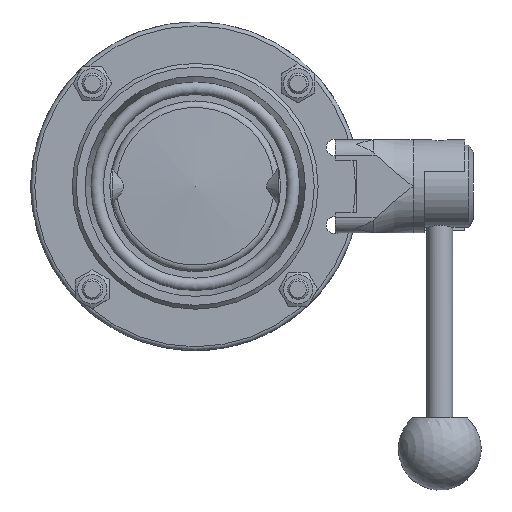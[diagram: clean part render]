
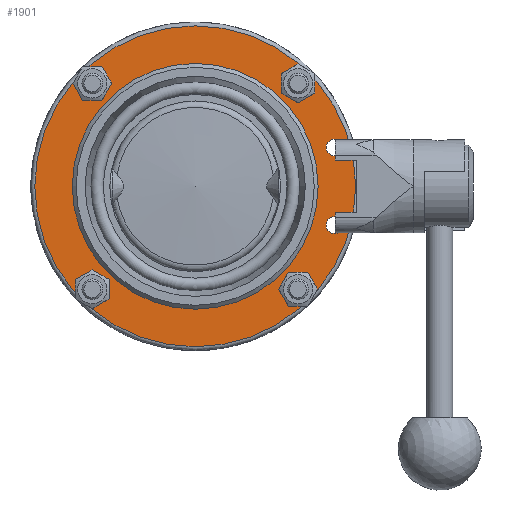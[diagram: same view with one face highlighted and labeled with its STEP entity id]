
A CAD part, front view. The second image highlights one B-rep face of the part: STEP entity #1901.
In plain terms, the highlighted planar face has unit normal (0, -1, 0) as drawn and (1, 0, 0) by its records, which use the part's own axes.
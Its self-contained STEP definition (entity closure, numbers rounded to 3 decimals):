
#1344=CARTESIAN_POINT('',(-9.36,41.04,57.05));
#1345=VERTEX_POINT('',#1344);
#1346=CARTESIAN_POINT('',(-9.36,41.04,53.8));
#1347=DIRECTION('',(-1.0,0.0,0.0));
#1348=DIRECTION('',(0.0,0.0,-1.0));
#1349=AXIS2_PLACEMENT_3D('',#1346,#1347,#1348);
#1350=CIRCLE('',#1349,3.25);
#1351=EDGE_CURVE('',#1345,#1345,#1350,.T.);
#1372=CARTESIAN_POINT('',(-9.36,11.04,57.05));
#1373=VERTEX_POINT('',#1372);
#1374=CARTESIAN_POINT('',(-9.36,11.04,53.8));
#1375=DIRECTION('',(-1.0,0.0,0.0));
#1376=DIRECTION('',(0.0,0.0,-1.0));
#1377=AXIS2_PLACEMENT_3D('',#1374,#1375,#1376);
#1378=CIRCLE('',#1377,3.25);
#1379=EDGE_CURVE('',#1373,#1373,#1378,.T.);
#1630=CARTESIAN_POINT('',(-9.36,-17.984,39.775));
#1631=VERTEX_POINT('',#1630);
#1632=CARTESIAN_POINT('',(-9.36,-13.734,39.775));
#1633=DIRECTION('',(-1.0,0.0,0.0));
#1634=DIRECTION('',(0.0,1.0,0.0));
#1635=AXIS2_PLACEMENT_3D('',#1632,#1633,#1634);
#1636=CIRCLE('',#1635,4.25);
#1637=EDGE_CURVE('',#1631,#1631,#1636,.T.);
#1650=CARTESIAN_POINT('',(-9.36,-13.734,-44.025));
#1651=VERTEX_POINT('',#1650);
#1652=CARTESIAN_POINT('',(-9.36,-13.734,-39.775));
#1653=DIRECTION('',(-1.0,0.0,0.0));
#1654=DIRECTION('',(0.0,0.0,1.0));
#1655=AXIS2_PLACEMENT_3D('',#1652,#1653,#1654);
#1656=CIRCLE('',#1655,4.25);
#1657=EDGE_CURVE('',#1651,#1651,#1656,.T.);
#1670=CARTESIAN_POINT('',(-9.36,70.065,-39.775));
#1671=VERTEX_POINT('',#1670);
#1672=CARTESIAN_POINT('',(-9.36,65.815,-39.775));
#1673=DIRECTION('',(-1.0,0.0,0.0));
#1674=DIRECTION('',(0.0,-1.0,0.0));
#1675=AXIS2_PLACEMENT_3D('',#1672,#1673,#1674);
#1676=CIRCLE('',#1675,4.25);
#1677=EDGE_CURVE('',#1671,#1671,#1676,.T.);
#1690=CARTESIAN_POINT('',(-9.36,65.815,44.025));
#1691=VERTEX_POINT('',#1690);
#1692=CARTESIAN_POINT('',(-9.36,65.815,39.775));
#1693=DIRECTION('',(-1.0,0.0,0.0));
#1694=DIRECTION('',(0.0,0.0,-1.0));
#1695=AXIS2_PLACEMENT_3D('',#1692,#1693,#1694);
#1696=CIRCLE('',#1695,4.25);
#1697=EDGE_CURVE('',#1691,#1691,#1696,.T.);
#1841=CARTESIAN_POINT('',(-9.36,-35.96,0.0));
#1842=VERTEX_POINT('',#1841);
#1843=CARTESIAN_POINT('',(-9.36,26.04,0.0));
#1844=DIRECTION('',(-1.0,0.0,0.0));
#1845=DIRECTION('',(0.0,1.0,0.0));
#1846=AXIS2_PLACEMENT_3D('',#1843,#1844,#1845);
#1847=CIRCLE('',#1846,62.);
#1848=EDGE_CURVE('',#1842,#1842,#1847,.T.);
#1864=CARTESIAN_POINT('',(-9.36,-29.46,0.0));
#1865=DIRECTION('',(1.0,0.0,0.0));
#1866=DIRECTION('',(0.0,0.0,-1.0));
#1867=AXIS2_PLACEMENT_3D('',#1864,#1865,#1866);
#1868=PLANE('',#1867);
#1869=ORIENTED_EDGE('',*,*,#1848,.F.);
#1870=EDGE_LOOP('',(#1869));
#1871=FACE_OUTER_BOUND('',#1870,.T.);
#1872=ORIENTED_EDGE('',*,*,#1351,.T.);
#1873=EDGE_LOOP('',(#1872));
#1874=FACE_BOUND('',#1873,.T.);
#1875=ORIENTED_EDGE('',*,*,#1379,.T.);
#1876=EDGE_LOOP('',(#1875));
#1877=FACE_BOUND('',#1876,.T.);
#1878=ORIENTED_EDGE('',*,*,#1637,.T.);
#1879=EDGE_LOOP('',(#1878));
#1880=FACE_BOUND('',#1879,.T.);
#1881=ORIENTED_EDGE('',*,*,#1657,.T.);
#1882=EDGE_LOOP('',(#1881));
#1883=FACE_BOUND('',#1882,.T.);
#1884=ORIENTED_EDGE('',*,*,#1677,.T.);
#1885=EDGE_LOOP('',(#1884));
#1886=FACE_BOUND('',#1885,.T.);
#1887=ORIENTED_EDGE('',*,*,#1697,.T.);
#1888=EDGE_LOOP('',(#1887));
#1889=FACE_BOUND('',#1888,.T.);
#1890=CARTESIAN_POINT('',(-9.36,-21.46,0.0));
#1891=VERTEX_POINT('',#1890);
#1892=CARTESIAN_POINT('',(-9.36,26.04,0.0));
#1893=DIRECTION('',(-1.0,0.0,0.0));
#1894=DIRECTION('',(0.0,-1.0,0.0));
#1895=AXIS2_PLACEMENT_3D('',#1892,#1893,#1894);
#1896=CIRCLE('',#1895,47.5);
#1897=EDGE_CURVE('',#1891,#1891,#1896,.T.);
#1898=ORIENTED_EDGE('',*,*,#1897,.T.);
#1899=EDGE_LOOP('',(#1898));
#1900=FACE_BOUND('',#1899,.T.);
#1901=ADVANCED_FACE('',(#1871,#1874,#1877,#1880,#1883,#1886,#1889,#1900),#1868,.T.);
